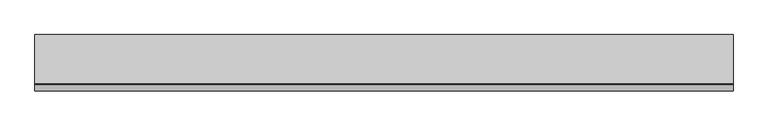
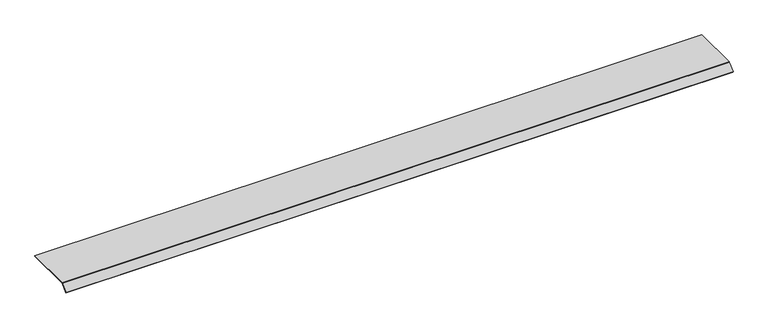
"""IFC4 building model written with IfcOpenShell, lengths in millimetres: proxy geometry, Electrical_Installation_Hager_Blank-Cover-800mm-Double-Sided-Extended-100-Height-70mm : Electrical_Installation_Hager_Blank-Cover-800mm-Double-Sided-Extended-100-Height-70mm."""

from ifc_helpers import new_model, si_unit, point, frame, frame_2d, origin, place, context, project, spatial, polyline, circle_curve, trimmed, segment, composite_curve, outline, extrude, source, transform, mapped, element, save


def electrical_fixtures_7f6fa224(model_context):
    return source(origin(), model_context, "Body", "SweptSolid", [
        extrude(outline(composite_curve([segment(polyline([(301.36328, 40.5), (301.36328, 37.5), (-199.8229541, 37.5)]), True, "CONTINUOUS"), segment(trimmed(circle_curve(frame_2d((-199.8229541, 36.0725733)), 1.4274267), [point((-199.8229541, 37.5))], [point((-200.8322972, 37.0819164))], True, "CARTESIAN"), True, "CONTINUOUS"), segment(polyline([(-200.8322972, 37.0819164), (-268.6627596, -30.7485461), (-270.78408, -28.6272257), (-202.8206472, 39.336207)]), True, "CONTINUOUS"), segment(trimmed(circle_curve(frame_2d((-200.0110025, 36.5265623)), 3.9734377), [point((-202.8206472, 39.336207))], [point((-200.0110025, 40.5))], False, "CARTESIAN"), True, "CONTINUOUS"), segment(polyline([(-200.0110025, 40.5), (301.36328, 40.5)]), True, "CONTINUOUS")], self_intersect=False)), frame((0.0, 0.0, 0.0), z_axis=(1.0, 0.0, 0.0), x_axis=(0.0, 1.0, 0.0)), (0.0, 0.0, 1.0), 7084.7629339),
    ])


if __name__ == "__main__":
    model = new_model("IFC4")
    model_context = context("Model", 3, world=origin())
    ifc_project = project(units=[si_unit("LENGTHUNIT", "METRE", prefix="MILLI")], contexts=[model_context])
    site = spatial("IfcSite", under=ifc_project)
    building = spatial("IfcBuilding", under=site)
    placement = place(None, origin())
    electrical_fixtures_shape = electrical_fixtures_7f6fa224(model_context)
    element("IfcBuildingElementProxy", 1, Name="Electrical_Installation_Hager_Blank-Cover-800mm-Double-Sided-Extended-100-Height-70mm : Electrical_Installation_Hager_Blank-Cover-800mm-Double-Sided-Extended-100-Height-70mm", ObjectType="Electrical_Installation_Hager_Blank-Cover-800mm-Double-Sided-Extended-100-Height-70mm : Electrical_Installation_Hager_Blank-Cover-800mm-Double-Sided-Extended-100-Height-70mm", at=placement, inside=building, context=model_context, shape_type="MappedRepresentation", body=[
        mapped(electrical_fixtures_shape, transform((0.0, 0.0, 0.0), x_axis=(1.0, 0.0, 0.0), y_axis=(0.0, 1.0, 0.0), z_axis=(0.0, 0.0, 1.0))),
    ])
    save(model, "model.ifc")
